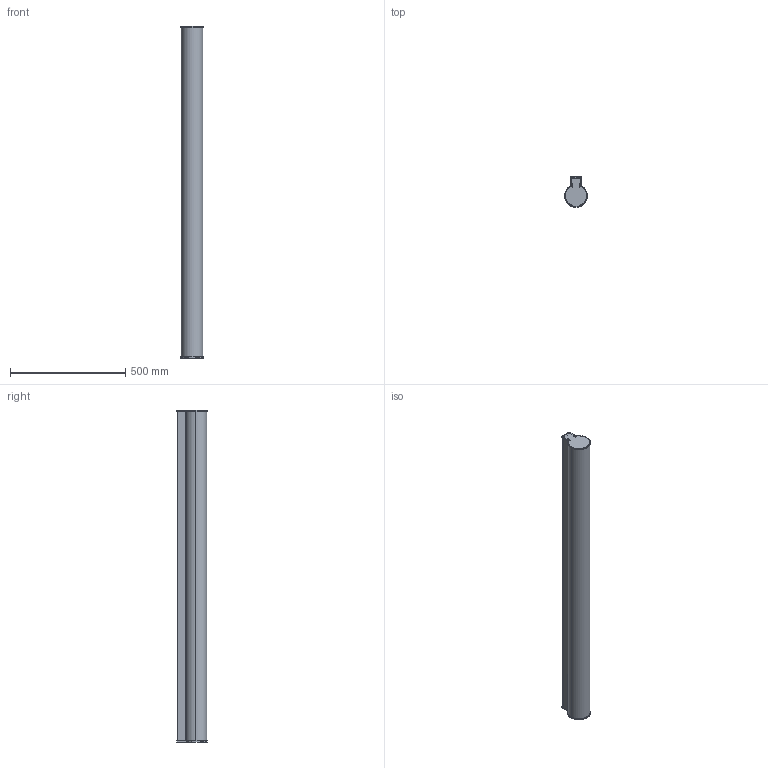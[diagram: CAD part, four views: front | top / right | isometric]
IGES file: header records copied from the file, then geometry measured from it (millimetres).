
Start section: SolidWorks IGES file using analytic representation for surfaces
Global section: file name: C:\Users\JoãoSantos\Desktop\02_3D.2D\01_2020\02_Linear\01_O975\01_Saliente\O975_1440.IGS; native system: SolidWorks 2020; preprocessor: SolidWorks 2020; author: JoãoSantos; date: 201021.111323; units: millimetre
Bounding box: 97.5 x 131.71 x 1440 mm (x, y, z)
Surface area: 1213212.1 mm2 (no closed solid volume)
Topology: 0 solids, 0 shells, 339 faces, 3550 edges, 3534 vertices
Faces by surface type: bspline 192, revolution 147
